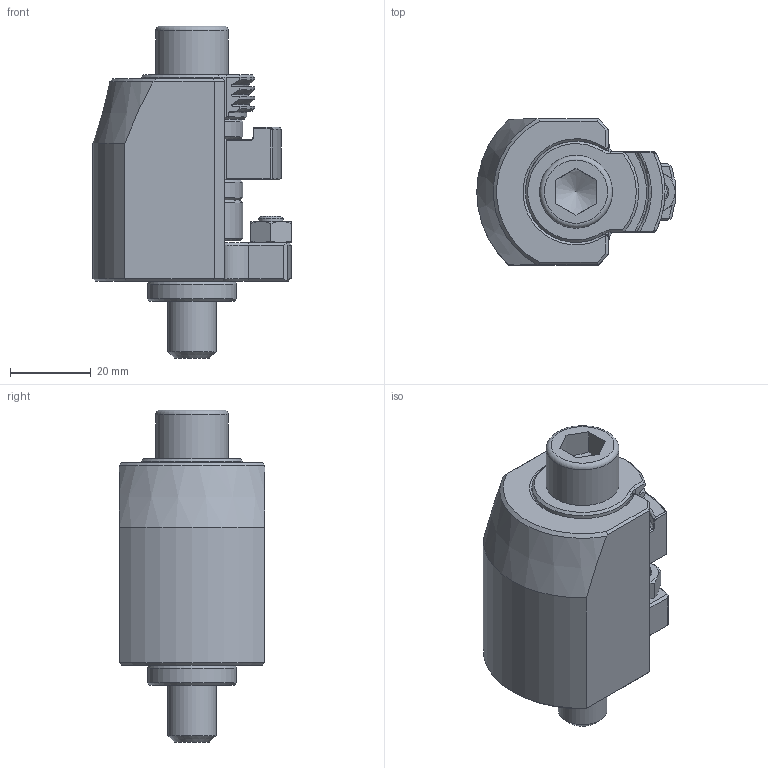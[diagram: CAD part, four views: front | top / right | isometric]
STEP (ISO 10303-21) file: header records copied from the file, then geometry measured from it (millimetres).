
FILE_DESCRIPTION(('STEP AP214'), '1');
FILE_NAME('BB.VS.100.51.051', '', ('UNSPECIFIED'), ('UNSPECIFIED'), 'C3D Converter', 'C3D Toolkit', '');
FILE_SCHEMA(('AUTOMOTIVE_DESIGN { 1 0 10303 214 3 1 1}'));
Length unit declared in the file: millimetre
Products named in the file (1): BB.VS.100.51.051 СБ
Bounding box: 49 x 36 x 82 mm (x, y, z)
Volume: 64841.1 mm3; surface area: 18892.8 mm2
Topology: 1 solids, 1 shells, 218 faces, 528 edges, 316 vertices
Faces by surface type: plane 96, cone 69, cylinder 37, torus 10, bspline 6
Full cylindrical faces by diameter (mm): 6 x1, 12 x1, 13 x6, 18 x1, 22 x1, 25 x2
Entity records: 9657 total; most frequent: CARTESIAN_POINT 3061, DIRECTION 988, ORIENTED_EDGE 966, EDGE_CURVE 483, AXIS2_PLACEMENT_3D 385, VERTEX_POINT 314, EDGE_LOOP 271, COLOUR_RGB 219
